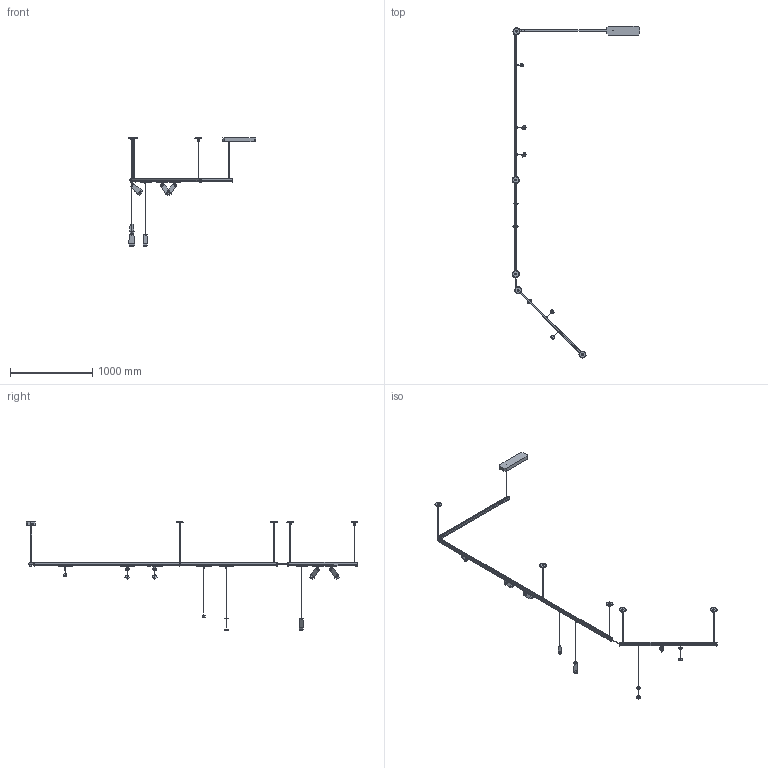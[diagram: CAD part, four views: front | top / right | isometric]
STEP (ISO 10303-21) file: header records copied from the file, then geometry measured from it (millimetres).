
FILE_DESCRIPTION(/* description */ (''),/* implementation_level */ '2;1');
FILE_NAME(/* name */ 'Gople System Suspension Configuration Example',/* time_stamp */ '2023-03-13T11:26:37+01:00',/* author */ (''),/* organization */ (''),/* preprocessor_version */ 'ST-DEVELOPER v16.5',/* originating_system */ 'Rhino 7.27',/* authorisation */ '');
FILE_SCHEMA (('AUTOMOTIVE_DESIGN'));
Products named in the file (1): Document
Bounding box: 1553.3 x 4043.95 x 1327.83 mm (x, y, z)
Volume: 14909443.7 mm3; surface area: 2002526.4 mm2
Topology: 59 solids, 133 shells, 2145 faces, 5371 edges, 3534 vertices
Faces by surface type: bspline 1012, plane 715, cylinder 418
Entity records: 137307 total; most frequent: CARTESIAN_POINT 95675, ORIENTED_EDGE 10415, EDGE_CURVE 5357, VERTEX_POINT 3492, B_SPLINE_CURVE_WITH_KNOTS 2947, EDGE_LOOP 2277, ADVANCED_FACE 2133, FACE_OUTER_BOUND 2133
